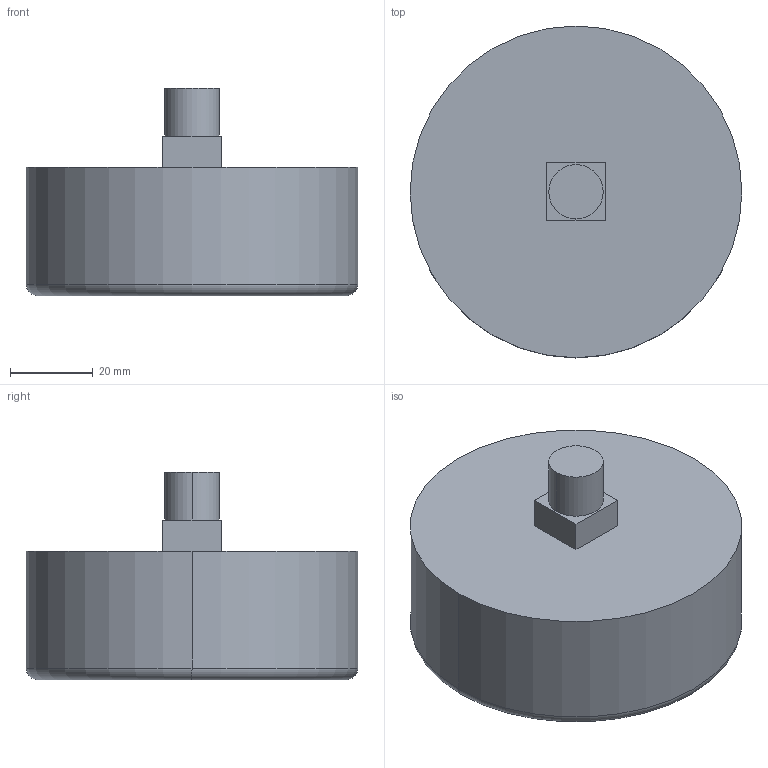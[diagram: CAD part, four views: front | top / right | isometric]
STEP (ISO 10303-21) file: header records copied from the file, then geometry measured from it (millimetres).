
FILE_DESCRIPTION (( 'STEP AP214' ), '1' );
FILE_NAME ('Manometr_grzewczy_hydrometr_x_0_3D_AFRISO.STEP', '2022-12-08T13:03:03', ( '' ), ( '' ), 'SwSTEP 2.0', 'SolidWorks 2022', '' );
FILE_SCHEMA (( 'AUTOMOTIVE_DESIGN' ));
Length unit declared in the file: millimetre
Products named in the file (1): Manometr_grzewczy_hydrometr_x_0_3D_AFRISO
Bounding box: 80 x 80 x 50 mm (x, y, z)
Volume: 158426.7 mm3; surface area: 18432 mm2
Topology: 1 solids, 1 shells, 14 faces, 28 edges, 18 vertices
Faces by surface type: plane 8, cylinder 4, torus 2
Entity records: 402 total; most frequent: DIRECTION 70, CARTESIAN_POINT 61, ORIENTED_EDGE 56, EDGE_CURVE 28, AXIS2_PLACEMENT_3D 27, VERTEX_POINT 18, EDGE_LOOP 16, VECTOR 16
